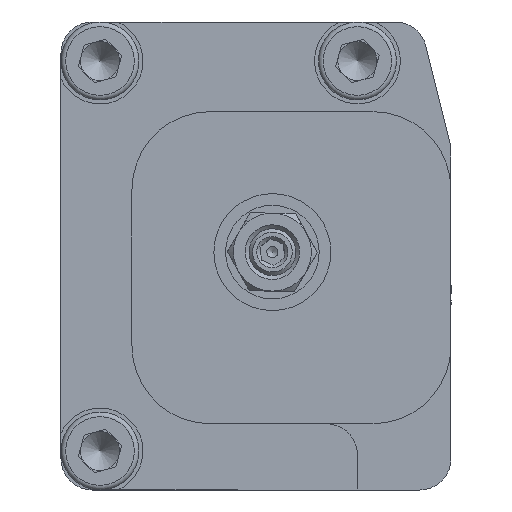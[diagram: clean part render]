
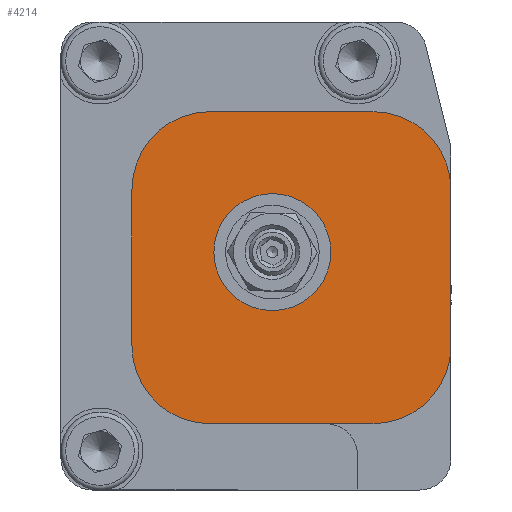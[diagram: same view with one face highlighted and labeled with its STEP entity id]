
A CAD part, left-side view. The second image highlights one B-rep face of the part: STEP entity #4214.
In plain terms, the highlighted planar face has unit normal (-1, 0, 0).
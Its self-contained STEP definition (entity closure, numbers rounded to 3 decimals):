
#7 = VERTEX_POINT ( 'NONE', #12366 ) ;
#172 = EDGE_CURVE ( 'NONE', #10067, #8817, #7563, .T. ) ;
#245 = VERTEX_POINT ( 'NONE', #6582 ) ;
#253 = VECTOR ( 'NONE', #1337, 1000. ) ;
#383 = CARTESIAN_POINT ( 'NONE',  ( 0., -9.1, 18.5 ) ) ;
#493 = VECTOR ( 'NONE', #1986, 1000. ) ;
#790 = ORIENTED_EDGE ( 'NONE', *, *, #11849, .T. ) ;
#1064 = CIRCLE ( 'NONE', #5341, 10. ) ;
#1219 = FACE_BOUND ( 'NONE', #4679, .T. ) ;
#1337 = DIRECTION ( 'NONE',  ( 0., 0., -1. ) ) ;
#1397 = DIRECTION ( 'NONE',  ( 0., 1., 0. ) ) ;
#1755 = EDGE_CURVE ( 'NONE', #10776, #10776, #8425, .T. ) ;
#1986 = DIRECTION ( 'NONE',  ( 0., 0., -1. ) ) ;
#2010 = CARTESIAN_POINT ( 'NONE',  ( 0., -34.6, 30.5 ) ) ;
#2289 = DIRECTION ( 'NONE',  ( -1., 0., 0. ) ) ;
#2358 = CARTESIAN_POINT ( 'NONE',  ( 0., 0., 60. ) ) ;
#2481 = AXIS2_PLACEMENT_3D ( 'NONE', #11818, #2289, #1397 ) ;
#2644 = CARTESIAN_POINT ( 'NONE',  ( 0., -9.1, 8.5 ) ) ;
#2893 = CIRCLE ( 'NONE', #2481, 10. ) ;
#3088 = CARTESIAN_POINT ( 'NONE',  ( 0., -50., 18.5 ) ) ;
#3515 = DIRECTION ( 'NONE',  ( -1., 0., 0. ) ) ;
#4065 = DIRECTION ( 'NONE',  ( -1., 0., 0. ) ) ;
#4086 = DIRECTION ( 'NONE',  ( 0., 1., 0. ) ) ;
#4214 = ADVANCED_FACE ( 'NONE', ( #1219, #8951 ), #9200, .F. ) ;
#4487 = VERTEX_POINT ( 'NONE', #10018 ) ;
#4508 = CARTESIAN_POINT ( 'NONE',  ( 0., -40., 18.5 ) ) ;
#4556 = LINE ( 'NONE', #2644, #7817 ) ;
#4679 = EDGE_LOOP ( 'NONE', ( #10505 ) ) ;
#4912 = VECTOR ( 'NONE', #8896, 1000. ) ;
#4919 = LINE ( 'NONE', #10749, #493 ) ;
#4984 = LINE ( 'NONE', #6917, #4912 ) ;
#5341 = AXIS2_PLACEMENT_3D ( 'NONE', #4508, #9445, #12309 ) ;
#5726 = CARTESIAN_POINT ( 'NONE',  ( 0., -19.1, 8.5 ) ) ;
#5778 = EDGE_CURVE ( 'NONE', #6155, #4487, #4556, .T. ) ;
#6040 = ORIENTED_EDGE ( 'NONE', *, *, #6981, .T. ) ;
#6155 = VERTEX_POINT ( 'NONE', #5726 ) ;
#6175 = CARTESIAN_POINT ( 'NONE',  ( 0., -50., 38.5 ) ) ;
#6389 = DIRECTION ( 'NONE',  ( 0., 1., 0. ) ) ;
#6536 = EDGE_LOOP ( 'NONE', ( #9596, #6672, #8868, #7904, #6040, #790, #7883, #11834 ) ) ;
#6582 = CARTESIAN_POINT ( 'NONE',  ( 0., -9.1, 38.5 ) ) ;
#6642 = AXIS2_PLACEMENT_3D ( 'NONE', #2358, #10161, #4086 ) ;
#6648 = EDGE_CURVE ( 'NONE', #7, #245, #12110, .T. ) ;
#6672 = ORIENTED_EDGE ( 'NONE', *, *, #172, .T. ) ;
#6854 = CARTESIAN_POINT ( 'NONE',  ( 0., -40., 48.5 ) ) ;
#6917 = CARTESIAN_POINT ( 'NONE',  ( 0., -9.1, 48.5 ) ) ;
#6981 = EDGE_CURVE ( 'NONE', #245, #8212, #4919, .T. ) ;
#7363 = CARTESIAN_POINT ( 'NONE',  ( 0., -19.1, 38.5 ) ) ;
#7563 = CIRCLE ( 'NONE', #7757, 10. ) ;
#7757 = AXIS2_PLACEMENT_3D ( 'NONE', #10165, #3515, #6389 ) ;
#7817 = VECTOR ( 'NONE', #12544, 1000. ) ;
#7883 = ORIENTED_EDGE ( 'NONE', *, *, #5778, .T. ) ;
#7904 = ORIENTED_EDGE ( 'NONE', *, *, #6648, .T. ) ;
#7969 = DIRECTION ( 'NONE',  ( 0., -1., 0. ) ) ;
#8212 = VERTEX_POINT ( 'NONE', #383 ) ;
#8425 = CIRCLE ( 'NONE', #12291, 7.5 ) ;
#8812 = EDGE_CURVE ( 'NONE', #8817, #7, #4984, .T. ) ;
#8817 = VERTEX_POINT ( 'NONE', #6854 ) ;
#8868 = ORIENTED_EDGE ( 'NONE', *, *, #8812, .T. ) ;
#8896 = DIRECTION ( 'NONE',  ( 0., 1., 0. ) ) ;
#8951 = FACE_OUTER_BOUND ( 'NONE', #6536, .T. ) ;
#9048 = AXIS2_PLACEMENT_3D ( 'NONE', #7363, #9218, #11071 ) ;
#9200 = PLANE ( 'NONE',  #6642 ) ;
#9218 = DIRECTION ( 'NONE',  ( -1., 0., 0. ) ) ;
#9445 = DIRECTION ( 'NONE',  ( -1., 0., 0. ) ) ;
#9596 = ORIENTED_EDGE ( 'NONE', *, *, #11931, .F. ) ;
#10018 = CARTESIAN_POINT ( 'NONE',  ( 0., -40., 8.5 ) ) ;
#10067 = VERTEX_POINT ( 'NONE', #6175 ) ;
#10089 = LINE ( 'NONE', #11879, #253 ) ;
#10161 = DIRECTION ( 'NONE',  ( 1., 0., 0. ) ) ;
#10165 = CARTESIAN_POINT ( 'NONE',  ( 0., -40., 38.5 ) ) ;
#10505 = ORIENTED_EDGE ( 'NONE', *, *, #1755, .F. ) ;
#10660 = VERTEX_POINT ( 'NONE', #3088 ) ;
#10749 = CARTESIAN_POINT ( 'NONE',  ( 0., -9.1, 8.5 ) ) ;
#10776 = VERTEX_POINT ( 'NONE', #2010 ) ;
#11071 = DIRECTION ( 'NONE',  ( 0., 1., 0. ) ) ;
#11818 = CARTESIAN_POINT ( 'NONE',  ( 0., -19.1, 18.5 ) ) ;
#11834 = ORIENTED_EDGE ( 'NONE', *, *, #12468, .T. ) ;
#11849 = EDGE_CURVE ( 'NONE', #8212, #6155, #2893, .T. ) ;
#11863 = CARTESIAN_POINT ( 'NONE',  ( 0., -27.1, 30.5 ) ) ;
#11879 = CARTESIAN_POINT ( 'NONE',  ( 0., -50., 60. ) ) ;
#11931 = EDGE_CURVE ( 'NONE', #10067, #10660, #10089, .T. ) ;
#12110 = CIRCLE ( 'NONE', #9048, 10. ) ;
#12291 = AXIS2_PLACEMENT_3D ( 'NONE', #11863, #4065, #7969 ) ;
#12309 = DIRECTION ( 'NONE',  ( 0., 1., 0. ) ) ;
#12366 = CARTESIAN_POINT ( 'NONE',  ( 0., -19.1, 48.5 ) ) ;
#12468 = EDGE_CURVE ( 'NONE', #4487, #10660, #1064, .T. ) ;
#12544 = DIRECTION ( 'NONE',  ( 0., -1., 0. ) ) ;
